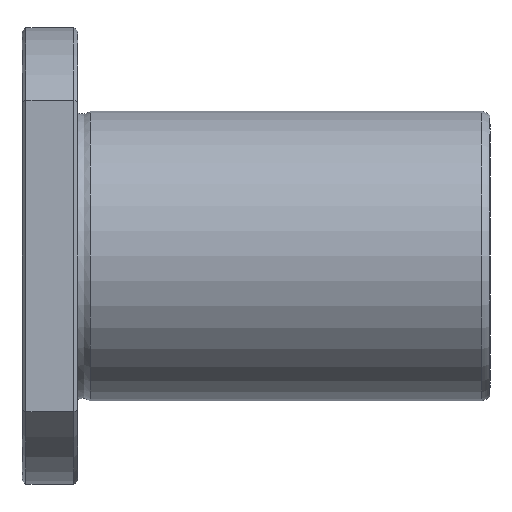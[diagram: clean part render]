
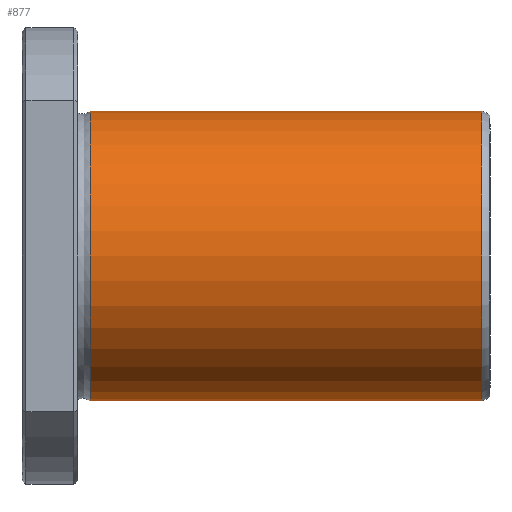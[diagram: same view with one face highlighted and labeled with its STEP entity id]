
A CAD part, front view. The second image highlights one B-rep face of the part: STEP entity #877.
In plain terms, the highlighted cylindrical face has radius 26 mm (diameter 52 mm), a full revolution.
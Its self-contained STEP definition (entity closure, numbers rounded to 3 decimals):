
#843=CARTESIAN_POINT('',(82.502,0.0,26.));
#844=VERTEX_POINT('',#843);
#845=CARTESIAN_POINT('',(82.502,0.0,0.0));
#846=DIRECTION('',(-1.0,0.0,0.0));
#847=DIRECTION('',(0.0,0.0,1.0));
#848=AXIS2_PLACEMENT_3D('',#845,#846,#847);
#849=CIRCLE('',#848,26.);
#850=EDGE_CURVE('',#844,#844,#849,.T.);
#858=CARTESIAN_POINT('',(47.362,0.0,0.0));
#859=DIRECTION('',(-1.0,0.0,0.0));
#860=DIRECTION('',(0.0,0.0,1.0));
#861=AXIS2_PLACEMENT_3D('',#858,#859,#860);
#862=CYLINDRICAL_SURFACE('',#861,26.);
#863=CARTESIAN_POINT('',(12.223,0.0,26.0));
#864=VERTEX_POINT('',#863);
#865=CARTESIAN_POINT('',(12.223,0.0,0.0));
#866=DIRECTION('',(-1.0,0.0,0.0));
#867=DIRECTION('',(0.0,0.0,1.0));
#868=AXIS2_PLACEMENT_3D('',#865,#866,#867);
#869=CIRCLE('',#868,26.0);
#870=EDGE_CURVE('',#864,#864,#869,.T.);
#871=ORIENTED_EDGE('',*,*,#870,.F.);
#872=EDGE_LOOP('',(#871));
#873=FACE_OUTER_BOUND('',#872,.T.);
#874=ORIENTED_EDGE('',*,*,#850,.T.);
#875=EDGE_LOOP('',(#874));
#876=FACE_BOUND('',#875,.T.);
#877=ADVANCED_FACE('',(#873,#876),#862,.T.);
